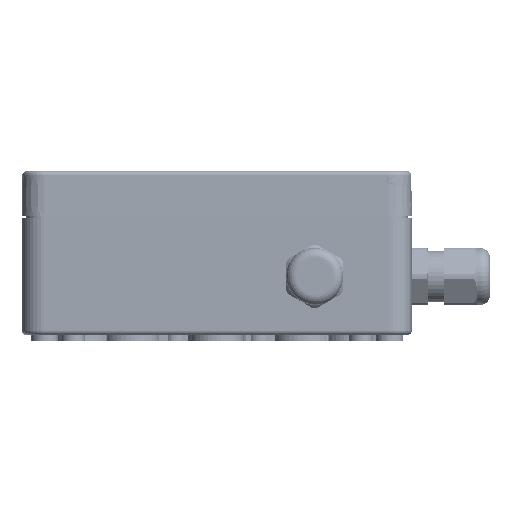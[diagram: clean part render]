
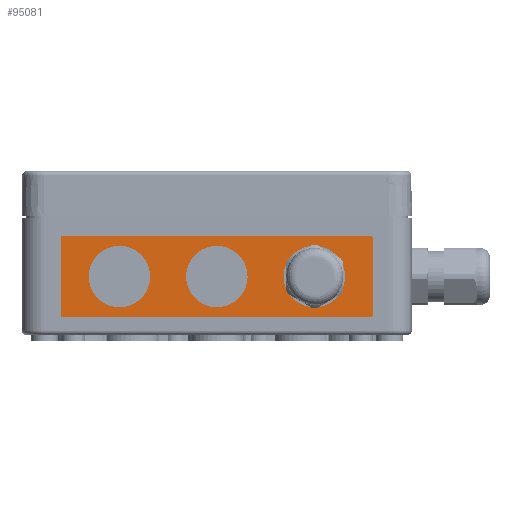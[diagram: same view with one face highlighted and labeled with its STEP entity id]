
A CAD part, left-side view. The second image highlights one B-rep face of the part: STEP entity #95081.
In plain terms, the highlighted planar face has unit normal (-1, 0, 0).
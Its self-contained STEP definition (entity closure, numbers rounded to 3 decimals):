
#5312 = ORIENTED_EDGE ( 'NONE', *, *, #244970, .T. ) ;
#6258 = DIRECTION ( 'NONE',  ( 1., 0., 0. ) ) ;
#12788 = CIRCLE ( 'NONE', #24467, 0.5 ) ;
#13488 = CARTESIAN_POINT ( 'NONE',  ( -47., 51.5, -8.5 ) ) ;
#14573 = CARTESIAN_POINT ( 'NONE',  ( -47., 32.5, -31.75 ) ) ;
#16325 = DIRECTION ( 'NONE',  ( 1., 0., 0. ) ) ;
#22959 = EDGE_CURVE ( 'NONE', #194853, #131686, #150577, .T. ) ;
#23420 = CARTESIAN_POINT ( 'NONE',  ( -47., 51.5, -35. ) ) ;
#24467 = AXIS2_PLACEMENT_3D ( 'NONE', #149667, #100665, #52669 ) ;
#26964 = AXIS2_PLACEMENT_3D ( 'NONE', #280829, #16325, #185805 ) ;
#35557 = CARTESIAN_POINT ( 'NONE',  ( -47., 32.5, -21.5 ) ) ;
#37370 = DIRECTION ( 'NONE',  ( 1., 0., 0. ) ) ;
#38072 = AXIS2_PLACEMENT_3D ( 'NONE', #35557, #280702, #159169 ) ;
#41115 = VERTEX_POINT ( 'NONE', #23420 ) ;
#47742 = VERTEX_POINT ( 'NONE', #99122 ) ;
#48041 = ORIENTED_EDGE ( 'NONE', *, *, #243076, .F. ) ;
#52669 = DIRECTION ( 'NONE',  ( 0., 0., -1. ) ) ;
#53575 = CARTESIAN_POINT ( 'NONE',  ( -47., 0., -21.5 ) ) ;
#55382 = DIRECTION ( 'NONE',  ( 0., 0., -1. ) ) ;
#55440 = CIRCLE ( 'NONE', #82994, 10.25 ) ;
#63226 = VERTEX_POINT ( 'NONE', #175409 ) ;
#65800 = ORIENTED_EDGE ( 'NONE', *, *, #268277, .T. ) ;
#66603 = VERTEX_POINT ( 'NONE', #14573 ) ;
#75543 = ORIENTED_EDGE ( 'NONE', *, *, #267889, .F. ) ;
#82994 = AXIS2_PLACEMENT_3D ( 'NONE', #84273, #37370, #254749 ) ;
#84273 = CARTESIAN_POINT ( 'NONE',  ( -47., 32.5, -21.5 ) ) ;
#86596 = DIRECTION ( 'NONE',  ( 0., 0., 1. ) ) ;
#86989 = FACE_BOUND ( 'NONE', #168609, .T. ) ;
#88305 = ORIENTED_EDGE ( 'NONE', *, *, #214658, .F. ) ;
#88615 = AXIS2_PLACEMENT_3D ( 'NONE', #13488, #232087, #134136 ) ;
#89354 = CIRCLE ( 'NONE', #26964, 0.5 ) ;
#89652 = CARTESIAN_POINT ( 'NONE',  ( -47., 52., -34.5 ) ) ;
#90160 = CARTESIAN_POINT ( 'NONE',  ( -47., 51.5, -8. ) ) ;
#90283 = EDGE_LOOP ( 'NONE', ( #252296, #5312 ) ) ;
#93386 = CARTESIAN_POINT ( 'NONE',  ( -47., 32.5, -11.25 ) ) ;
#93426 = VERTEX_POINT ( 'NONE', #95721 ) ;
#94646 = DIRECTION ( 'NONE',  ( -1., 0., 0. ) ) ;
#95081 = ADVANCED_FACE ( 'NONE', ( #224228, #86989, #216591, #201310 ), #142561, .T. ) ;
#95721 = CARTESIAN_POINT ( 'NONE',  ( -47., -32.5, -11.25 ) ) ;
#99122 = CARTESIAN_POINT ( 'NONE',  ( -47., -51.5, -35. ) ) ;
#100665 = DIRECTION ( 'NONE',  ( 1., 0., 0. ) ) ;
#103375 = LINE ( 'NONE', #263715, #156819 ) ;
#106215 = LINE ( 'NONE', #232562, #262493 ) ;
#113622 = CARTESIAN_POINT ( 'NONE',  ( -47., -52., -8.5 ) ) ;
#115456 = ORIENTED_EDGE ( 'NONE', *, *, #201806, .F. ) ;
#124035 = AXIS2_PLACEMENT_3D ( 'NONE', #240539, #94646, #265099 ) ;
#131686 = VERTEX_POINT ( 'NONE', #302070 ) ;
#133417 = CIRCLE ( 'NONE', #88615, 0.5 ) ;
#134136 = DIRECTION ( 'NONE',  ( 0., 0., -1. ) ) ;
#137282 = CIRCLE ( 'NONE', #300718, 10.25 ) ;
#141892 = EDGE_CURVE ( 'NONE', #47742, #41115, #161963, .T. ) ;
#142561 = PLANE ( 'NONE',  #124035 ) ;
#145254 = AXIS2_PLACEMENT_3D ( 'NONE', #232181, #254608, #256745 ) ;
#146639 = EDGE_CURVE ( 'NONE', #277606, #63226, #106215, .T. ) ;
#149514 = DIRECTION ( 'NONE',  ( 0., 0., -1. ) ) ;
#149667 = CARTESIAN_POINT ( 'NONE',  ( -47., -51.5, -8.5 ) ) ;
#150142 = ORIENTED_EDGE ( 'NONE', *, *, #155762, .T. ) ;
#150577 = LINE ( 'NONE', #113622, #287919 ) ;
#151872 = VERTEX_POINT ( 'NONE', #163169 ) ;
#152341 = CARTESIAN_POINT ( 'NONE',  ( -47., -51.5, -34.5 ) ) ;
#155762 = EDGE_CURVE ( 'NONE', #200509, #93426, #178813, .T. ) ;
#156819 = VECTOR ( 'NONE', #242280, 1000. ) ;
#159169 = DIRECTION ( 'NONE',  ( 0., 0., -1. ) ) ;
#161687 = VERTEX_POINT ( 'NONE', #93386 ) ;
#161963 = LINE ( 'NONE', #226500, #291734 ) ;
#163169 = CARTESIAN_POINT ( 'NONE',  ( -47., 0., -11.25 ) ) ;
#165957 = ORIENTED_EDGE ( 'NONE', *, *, #298402, .T. ) ;
#168609 = EDGE_LOOP ( 'NONE', ( #65800, #165957 ) ) ;
#174795 = CIRCLE ( 'NONE', #38072, 10.25 ) ;
#175409 = CARTESIAN_POINT ( 'NONE',  ( -47., 52., -8.5 ) ) ;
#178813 = CIRCLE ( 'NONE', #289799, 10.25 ) ;
#182008 = CARTESIAN_POINT ( 'NONE',  ( -47., -51.5, -8. ) ) ;
#183848 = DIRECTION ( 'NONE',  ( 1., 0., 0. ) ) ;
#184326 = CIRCLE ( 'NONE', #145254, 10.25 ) ;
#185805 = DIRECTION ( 'NONE',  ( 0., 0., -1. ) ) ;
#192067 = ORIENTED_EDGE ( 'NONE', *, *, #141892, .F. ) ;
#193807 = CARTESIAN_POINT ( 'NONE',  ( -47., -32.5, -31.75 ) ) ;
#194853 = VERTEX_POINT ( 'NONE', #230312 ) ;
#199812 = EDGE_CURVE ( 'NONE', #66603, #161687, #174795, .T. ) ;
#200509 = VERTEX_POINT ( 'NONE', #193807 ) ;
#201310 = FACE_OUTER_BOUND ( 'NONE', #279015, .T. ) ;
#201806 = EDGE_CURVE ( 'NONE', #272545, #194853, #12788, .T. ) ;
#202329 = DIRECTION ( 'NONE',  ( 0., 0., -1. ) ) ;
#203309 = CIRCLE ( 'NONE', #243691, 10.25 ) ;
#207240 = DIRECTION ( 'NONE',  ( 0., 1., 0. ) ) ;
#214658 = EDGE_CURVE ( 'NONE', #248610, #272545, #103375, .T. ) ;
#216591 = FACE_BOUND ( 'NONE', #312276, .T. ) ;
#221872 = DIRECTION ( 'NONE',  ( 1., 0., 0. ) ) ;
#224228 = FACE_BOUND ( 'NONE', #90283, .T. ) ;
#226500 = CARTESIAN_POINT ( 'NONE',  ( -47., -51.5, -35. ) ) ;
#226857 = DIRECTION ( 'NONE',  ( 1., 0., 0. ) ) ;
#230312 = CARTESIAN_POINT ( 'NONE',  ( -47., -52., -8.5 ) ) ;
#232087 = DIRECTION ( 'NONE',  ( 1., 0., 0. ) ) ;
#232181 = CARTESIAN_POINT ( 'NONE',  ( -47., 0., -21.5 ) ) ;
#232562 = CARTESIAN_POINT ( 'NONE',  ( -47., 52., -34.5 ) ) ;
#238850 = ORIENTED_EDGE ( 'NONE', *, *, #289908, .F. ) ;
#240539 = CARTESIAN_POINT ( 'NONE',  ( -47., 65., -43. ) ) ;
#240542 = CARTESIAN_POINT ( 'NONE',  ( -47., 0., -31.75 ) ) ;
#242280 = DIRECTION ( 'NONE',  ( 0., -1., 0. ) ) ;
#243076 = EDGE_CURVE ( 'NONE', #63226, #248610, #133417, .T. ) ;
#243691 = AXIS2_PLACEMENT_3D ( 'NONE', #53575, #221872, #149514 ) ;
#244970 = EDGE_CURVE ( 'NONE', #161687, #66603, #55440, .T. ) ;
#246841 = ORIENTED_EDGE ( 'NONE', *, *, #22959, .F. ) ;
#248610 = VERTEX_POINT ( 'NONE', #90160 ) ;
#250327 = CARTESIAN_POINT ( 'NONE',  ( -47., -32.5, -21.5 ) ) ;
#252158 = VERTEX_POINT ( 'NONE', #240542 ) ;
#252296 = ORIENTED_EDGE ( 'NONE', *, *, #199812, .T. ) ;
#254608 = DIRECTION ( 'NONE',  ( 1., 0., 0. ) ) ;
#254749 = DIRECTION ( 'NONE',  ( 0., 0., -1. ) ) ;
#256745 = DIRECTION ( 'NONE',  ( 0., 0., -1. ) ) ;
#259574 = CIRCLE ( 'NONE', #259649, 0.5 ) ;
#259649 = AXIS2_PLACEMENT_3D ( 'NONE', #152341, #6258, #55382 ) ;
#262493 = VECTOR ( 'NONE', #86596, 1000. ) ;
#263715 = CARTESIAN_POINT ( 'NONE',  ( -47., 51.5, -8. ) ) ;
#265099 = DIRECTION ( 'NONE',  ( 0., 0., 1. ) ) ;
#267889 = EDGE_CURVE ( 'NONE', #41115, #277606, #89354, .T. ) ;
#268277 = EDGE_CURVE ( 'NONE', #252158, #151872, #203309, .T. ) ;
#272545 = VERTEX_POINT ( 'NONE', #182008 ) ;
#277606 = VERTEX_POINT ( 'NONE', #89652 ) ;
#279015 = EDGE_LOOP ( 'NONE', ( #48041, #293229, #75543, #192067, #238850, #246841, #115456, #88305 ) ) ;
#280702 = DIRECTION ( 'NONE',  ( 1., 0., 0. ) ) ;
#280829 = CARTESIAN_POINT ( 'NONE',  ( -47., 51.5, -34.5 ) ) ;
#280983 = CARTESIAN_POINT ( 'NONE',  ( -47., -32.5, -21.5 ) ) ;
#287919 = VECTOR ( 'NONE', #308656, 1000. ) ;
#289799 = AXIS2_PLACEMENT_3D ( 'NONE', #280983, #183848, #304412 ) ;
#289908 = EDGE_CURVE ( 'NONE', #131686, #47742, #259574, .T. ) ;
#291734 = VECTOR ( 'NONE', #207240, 1000. ) ;
#293229 = ORIENTED_EDGE ( 'NONE', *, *, #146639, .F. ) ;
#298402 = EDGE_CURVE ( 'NONE', #151872, #252158, #184326, .T. ) ;
#299788 = EDGE_CURVE ( 'NONE', #93426, #200509, #137282, .T. ) ;
#300718 = AXIS2_PLACEMENT_3D ( 'NONE', #250327, #226857, #202329 ) ;
#302070 = CARTESIAN_POINT ( 'NONE',  ( -47., -52., -34.5 ) ) ;
#303240 = ORIENTED_EDGE ( 'NONE', *, *, #299788, .T. ) ;
#304412 = DIRECTION ( 'NONE',  ( 0., 0., -1. ) ) ;
#308656 = DIRECTION ( 'NONE',  ( 0., 0., -1. ) ) ;
#312276 = EDGE_LOOP ( 'NONE', ( #150142, #303240 ) ) ;
